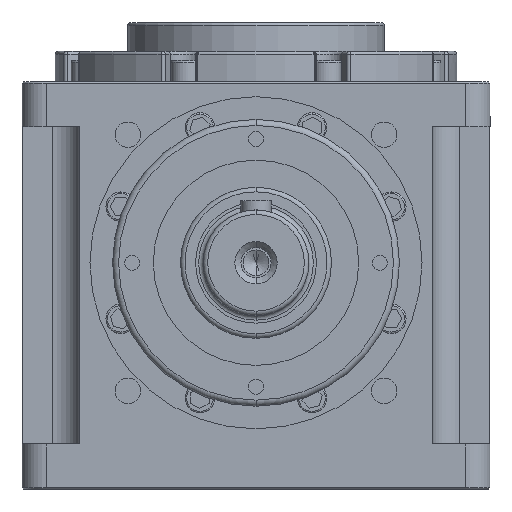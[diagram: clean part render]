
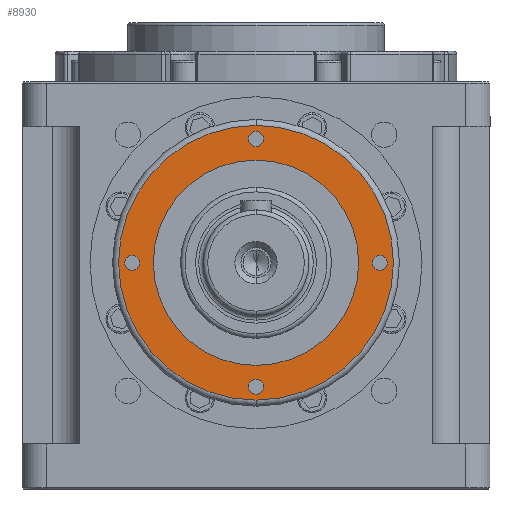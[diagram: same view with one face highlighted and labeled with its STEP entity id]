
A CAD part, front view. The second image highlights one B-rep face of the part: STEP entity #8930.
In plain terms, the highlighted planar face has unit normal (0, -1, 0).
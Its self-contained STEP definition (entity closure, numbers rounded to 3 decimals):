
#7 = CARTESIAN_POINT ( 'NONE',  ( 0., -46.5, -41. ) ) ;
#523 = DIRECTION ( 'NONE',  ( 0., -1., 0. ) ) ;
#629 = FACE_OUTER_BOUND ( 'NONE', #9126, .T. ) ;
#648 = DIRECTION ( 'NONE',  ( 0., 0., -1. ) ) ;
#682 = AXIS2_PLACEMENT_3D ( 'NONE', #11189, #13462, #16153 ) ;
#780 = DIRECTION ( 'NONE',  ( 0., -1., 0. ) ) ;
#1048 = VERTEX_POINT ( 'NONE', #10490 ) ;
#1354 = EDGE_LOOP ( 'NONE', ( #5052, #1540 ) ) ;
#1372 = CIRCLE ( 'NONE', #11586, 34. ) ;
#1540 = ORIENTED_EDGE ( 'NONE', *, *, #6378, .F. ) ;
#1719 = AXIS2_PLACEMENT_3D ( 'NONE', #15594, #15993, #15914 ) ;
#1854 = FACE_BOUND ( 'NONE', #1354, .T. ) ;
#1999 = CARTESIAN_POINT ( 'NONE',  ( -41., -46.5, 2.5 ) ) ;
#2059 = DIRECTION ( 'NONE',  ( 0., -1., 0. ) ) ;
#2189 = CIRCLE ( 'NONE', #5322, 45.5 ) ;
#2195 = CARTESIAN_POINT ( 'NONE',  ( 41., -46.5, -2.5 ) ) ;
#2274 = DIRECTION ( 'NONE',  ( 0., 0., -1. ) ) ;
#2334 = CIRCLE ( 'NONE', #7294, 2.5 ) ;
#2512 = VERTEX_POINT ( 'NONE', #15611 ) ;
#2575 = VERTEX_POINT ( 'NONE', #2195 ) ;
#2975 = EDGE_CURVE ( 'NONE', #11919, #16083, #11089, .T. ) ;
#3025 = EDGE_LOOP ( 'NONE', ( #11785, #12334 ) ) ;
#3074 = CARTESIAN_POINT ( 'NONE',  ( -41., -46.5, 0. ) ) ;
#3151 = DIRECTION ( 'NONE',  ( 0., 0., -1. ) ) ;
#3318 = AXIS2_PLACEMENT_3D ( 'NONE', #14480, #2059, #7044 ) ;
#3392 = CARTESIAN_POINT ( 'NONE',  ( -41., -46.5, -2.5 ) ) ;
#3398 = EDGE_CURVE ( 'NONE', #4028, #11178, #15735, .T. ) ;
#3682 = DIRECTION ( 'NONE',  ( 0., -1., 0. ) ) ;
#4028 = VERTEX_POINT ( 'NONE', #9910 ) ;
#4157 = DIRECTION ( 'NONE',  ( 0., 0., -1. ) ) ;
#4228 = FACE_BOUND ( 'NONE', #3025, .T. ) ;
#4370 = EDGE_CURVE ( 'NONE', #16083, #11919, #5653, .T. ) ;
#4431 = DIRECTION ( 'NONE',  ( 0., 0., -1. ) ) ;
#4556 = ORIENTED_EDGE ( 'NONE', *, *, #4370, .F. ) ;
#4684 = ORIENTED_EDGE ( 'NONE', *, *, #2975, .F. ) ;
#4948 = ORIENTED_EDGE ( 'NONE', *, *, #10717, .T. ) ;
#4972 = CARTESIAN_POINT ( 'NONE',  ( 0., -46.5, -43.5 ) ) ;
#5052 = ORIENTED_EDGE ( 'NONE', *, *, #8225, .F. ) ;
#5093 = CIRCLE ( 'NONE', #7181, 2.5 ) ;
#5322 = AXIS2_PLACEMENT_3D ( 'NONE', #5579, #15393, #4431 ) ;
#5430 = CIRCLE ( 'NONE', #14302, 2.5 ) ;
#5493 = EDGE_CURVE ( 'NONE', #10391, #12578, #1372, .T. ) ;
#5511 = DIRECTION ( 'NONE',  ( 0., 0., -1. ) ) ;
#5579 = CARTESIAN_POINT ( 'NONE',  ( 0., -46.5, 0. ) ) ;
#5597 = DIRECTION ( 'NONE',  ( 0., 0., -1. ) ) ;
#5620 = FACE_BOUND ( 'NONE', #8257, .T. ) ;
#5653 = CIRCLE ( 'NONE', #682, 2.5 ) ;
#6129 = ORIENTED_EDGE ( 'NONE', *, *, #10275, .F. ) ;
#6378 = EDGE_CURVE ( 'NONE', #1048, #11807, #7475, .T. ) ;
#6882 = EDGE_CURVE ( 'NONE', #2575, #12505, #13772, .T. ) ;
#7044 = DIRECTION ( 'NONE',  ( 0., 0., -1. ) ) ;
#7063 = DIRECTION ( 'NONE',  ( 0., 0., -1. ) ) ;
#7181 = AXIS2_PLACEMENT_3D ( 'NONE', #10619, #14520, #13059 ) ;
#7294 = AXIS2_PLACEMENT_3D ( 'NONE', #7, #3682, #8674 ) ;
#7475 = CIRCLE ( 'NONE', #9846, 2.5 ) ;
#7770 = ORIENTED_EDGE ( 'NONE', *, *, #11127, .T. ) ;
#7927 = EDGE_LOOP ( 'NONE', ( #8871, #6129 ) ) ;
#7928 = CIRCLE ( 'NONE', #12369, 45.5 ) ;
#8050 = EDGE_LOOP ( 'NONE', ( #4556, #4684 ) ) ;
#8166 = CARTESIAN_POINT ( 'NONE',  ( 0., -46.5, 0. ) ) ;
#8173 = AXIS2_PLACEMENT_3D ( 'NONE', #9603, #13121, #7063 ) ;
#8211 = CARTESIAN_POINT ( 'NONE',  ( 0., -46.5, -41. ) ) ;
#8225 = EDGE_CURVE ( 'NONE', #11807, #1048, #2334, .T. ) ;
#8257 = EDGE_LOOP ( 'NONE', ( #13080, #15322 ) ) ;
#8489 = CARTESIAN_POINT ( 'NONE',  ( 0., -46.5, 41. ) ) ;
#8674 = DIRECTION ( 'NONE',  ( 0., 0., -1. ) ) ;
#8871 = ORIENTED_EDGE ( 'NONE', *, *, #6882, .F. ) ;
#8930 = ADVANCED_FACE ( 'NONE', ( #10464, #1854, #11853, #4228, #629, #5620 ), #10626, .T. ) ;
#9006 = CARTESIAN_POINT ( 'NONE',  ( 41., -46.5, 2.5 ) ) ;
#9126 = EDGE_LOOP ( 'NONE', ( #4948, #7770 ) ) ;
#9166 = VERTEX_POINT ( 'NONE', #11913 ) ;
#9194 = CARTESIAN_POINT ( 'NONE',  ( 0., -46.5, 0. ) ) ;
#9603 = CARTESIAN_POINT ( 'NONE',  ( 0., -46.5, 41. ) ) ;
#9846 = AXIS2_PLACEMENT_3D ( 'NONE', #8211, #10681, #5511 ) ;
#9910 = CARTESIAN_POINT ( 'NONE',  ( 0., -46.5, 43.5 ) ) ;
#10075 = CARTESIAN_POINT ( 'NONE',  ( 0., -46.5, 34. ) ) ;
#10275 = EDGE_CURVE ( 'NONE', #12505, #2575, #5093, .T. ) ;
#10391 = VERTEX_POINT ( 'NONE', #14762 ) ;
#10464 = FACE_BOUND ( 'NONE', #7927, .T. ) ;
#10490 = CARTESIAN_POINT ( 'NONE',  ( 0., -46.5, -38.5 ) ) ;
#10619 = CARTESIAN_POINT ( 'NONE',  ( 41., -46.5, 0. ) ) ;
#10626 = PLANE ( 'NONE',  #1719 ) ;
#10681 = DIRECTION ( 'NONE',  ( 0., -1., 0. ) ) ;
#10717 = EDGE_CURVE ( 'NONE', #2512, #9166, #7928, .T. ) ;
#11089 = CIRCLE ( 'NONE', #12650, 2.5 ) ;
#11127 = EDGE_CURVE ( 'NONE', #9166, #2512, #2189, .T. ) ;
#11178 = VERTEX_POINT ( 'NONE', #15872 ) ;
#11189 = CARTESIAN_POINT ( 'NONE',  ( -41., -46.5, 0. ) ) ;
#11586 = AXIS2_PLACEMENT_3D ( 'NONE', #14308, #11717, #648 ) ;
#11717 = DIRECTION ( 'NONE',  ( 0., -1., 0. ) ) ;
#11785 = ORIENTED_EDGE ( 'NONE', *, *, #15663, .F. ) ;
#11807 = VERTEX_POINT ( 'NONE', #4972 ) ;
#11853 = FACE_BOUND ( 'NONE', #8050, .T. ) ;
#11913 = CARTESIAN_POINT ( 'NONE',  ( 0., -46.5, 45.5 ) ) ;
#11919 = VERTEX_POINT ( 'NONE', #1999 ) ;
#12312 = AXIS2_PLACEMENT_3D ( 'NONE', #8166, #15605, #4157 ) ;
#12334 = ORIENTED_EDGE ( 'NONE', *, *, #3398, .F. ) ;
#12369 = AXIS2_PLACEMENT_3D ( 'NONE', #9194, #523, #5597 ) ;
#12505 = VERTEX_POINT ( 'NONE', #9006 ) ;
#12578 = VERTEX_POINT ( 'NONE', #10075 ) ;
#12650 = AXIS2_PLACEMENT_3D ( 'NONE', #3074, #780, #3151 ) ;
#13059 = DIRECTION ( 'NONE',  ( 0., 0., -1. ) ) ;
#13080 = ORIENTED_EDGE ( 'NONE', *, *, #5493, .F. ) ;
#13121 = DIRECTION ( 'NONE',  ( 0., -1., 0. ) ) ;
#13462 = DIRECTION ( 'NONE',  ( 0., -1., 0. ) ) ;
#13772 = CIRCLE ( 'NONE', #3318, 2.5 ) ;
#14275 = EDGE_CURVE ( 'NONE', #12578, #10391, #14906, .T. ) ;
#14302 = AXIS2_PLACEMENT_3D ( 'NONE', #8489, #15924, #2274 ) ;
#14308 = CARTESIAN_POINT ( 'NONE',  ( 0., -46.5, 0. ) ) ;
#14480 = CARTESIAN_POINT ( 'NONE',  ( 41., -46.5, 0. ) ) ;
#14520 = DIRECTION ( 'NONE',  ( 0., -1., 0. ) ) ;
#14762 = CARTESIAN_POINT ( 'NONE',  ( 0., -46.5, -34. ) ) ;
#14906 = CIRCLE ( 'NONE', #12312, 34. ) ;
#15322 = ORIENTED_EDGE ( 'NONE', *, *, #14275, .F. ) ;
#15393 = DIRECTION ( 'NONE',  ( 0., -1., 0. ) ) ;
#15594 = CARTESIAN_POINT ( 'NONE',  ( 0., -46.5, 0. ) ) ;
#15605 = DIRECTION ( 'NONE',  ( 0., -1., 0. ) ) ;
#15611 = CARTESIAN_POINT ( 'NONE',  ( 0., -46.5, -45.5 ) ) ;
#15663 = EDGE_CURVE ( 'NONE', #11178, #4028, #5430, .T. ) ;
#15735 = CIRCLE ( 'NONE', #8173, 2.5 ) ;
#15872 = CARTESIAN_POINT ( 'NONE',  ( 0., -46.5, 38.5 ) ) ;
#15914 = DIRECTION ( 'NONE',  ( 0., 0., -1. ) ) ;
#15924 = DIRECTION ( 'NONE',  ( 0., -1., 0. ) ) ;
#15993 = DIRECTION ( 'NONE',  ( 0., -1., 0. ) ) ;
#16083 = VERTEX_POINT ( 'NONE', #3392 ) ;
#16153 = DIRECTION ( 'NONE',  ( 0., 0., -1. ) ) ;
